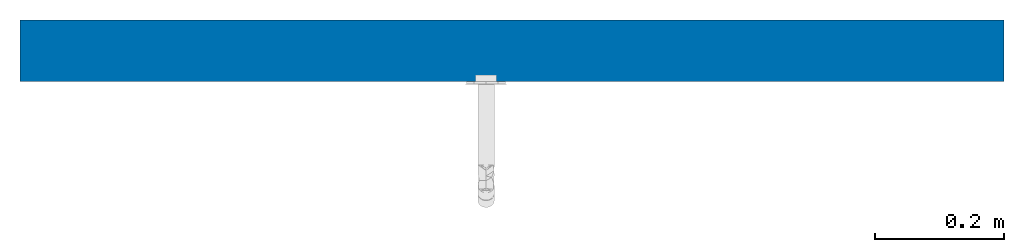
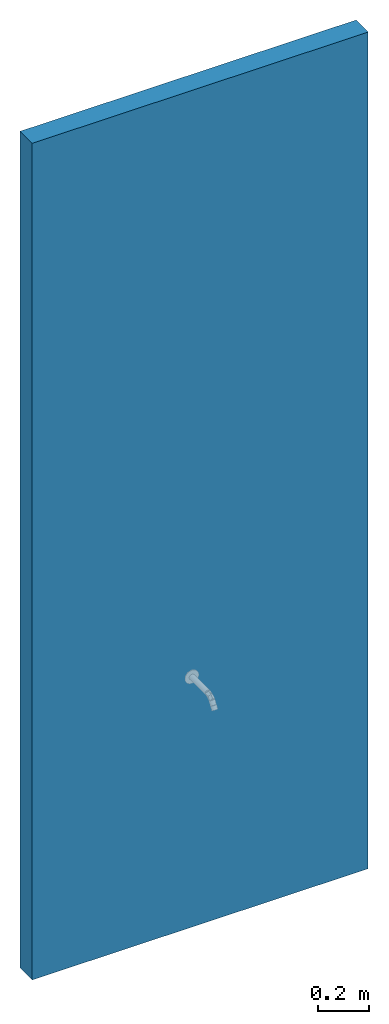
# One storey, incomplete: 1 wall.
"""IFC2X3 building model written with IfcOpenShell, lengths in millimetres."""

from ifc_helpers import new_model, entity, si_unit, converted_unit, derived_unit, direction, frame, frame_2d, origin, place, context, subcontext, project, spatial, rectangle, extrude, material, layer, layer_set, layer_usage, type_object, element, save


model = new_model("IFC2X3")

# Units and contexts
model_context = context("Model", 3, precision=0.01, world=origin(), true_north=direction((6.12303176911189e-17, 1.0)))
context_of_model = context(None, 3, precision=0.01, world=origin(), true_north=direction((6.12303176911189e-17, 1.0)))
body_context = subcontext(model_context, "Body", "Model", "MODEL_VIEW")
ifc_project = project(units=[si_unit("LENGTHUNIT", "METRE", prefix="MILLI"), si_unit("AREAUNIT", "SQUARE_METRE"), si_unit("VOLUMEUNIT", "CUBIC_METRE"), converted_unit("PLANEANGLEUNIT", "DEGREE", entity("IfcRatioMeasure", 0.0174532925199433), si_unit("PLANEANGLEUNIT", "RADIAN"), dimensions=[0, 0, 0, 0, 0, 0, 0]), si_unit("MASSUNIT", "GRAM", prefix="KILO"), si_unit("TIMEUNIT", "SECOND"), si_unit("FREQUENCYUNIT", "HERTZ"), si_unit("THERMODYNAMICTEMPERATUREUNIT", "DEGREE_CELSIUS"), derived_unit("THERMALTRANSMITTANCEUNIT", [(si_unit("MASSUNIT", "GRAM", prefix="KILO"), 1), (si_unit("THERMODYNAMICTEMPERATUREUNIT", "KELVIN"), -1), (si_unit("TIMEUNIT", "SECOND"), -3)]), derived_unit("VOLUMETRICFLOWRATEUNIT", [(si_unit("LENGTHUNIT", "METRE"), 3), (si_unit("TIMEUNIT", "SECOND"), -1)]), si_unit("ELECTRICCURRENTUNIT", "AMPERE"), si_unit("ELECTRICVOLTAGEUNIT", "VOLT"), si_unit("POWERUNIT", "WATT"), si_unit("FORCEUNIT", "NEWTON", prefix="KILO"), si_unit("ILLUMINANCEUNIT", "LUX"), si_unit("LUMINOUSFLUXUNIT", "LUMEN"), si_unit("LUMINOUSINTENSITYUNIT", "CANDELA"), si_unit("PRESSUREUNIT", "PASCAL")], contexts=[model_context, context_of_model])

# Site, building, storey
site_placement = place(None, origin())
site = spatial("IfcSite", under=ifc_project, at=site_placement, Name="Default", CompositionType="ELEMENT")
building_placement = place(site_placement, origin())
building = spatial("IfcBuilding", under=site, at=building_placement, CompositionType="ELEMENT")
storey_placement = place(building_placement, origin())
storey = spatial("IfcBuildingStorey", under=building, at=storey_placement, Name="Level 0", CompositionType="ELEMENT", Elevation=0.0)

# Wall
ifc_material_1 = material(Name="Plaster")
ifc_layer_1 = layer(ifc_material_1, 12.5)
ifc_material_2 = material(Name="Metal Stud Layer")
ifc_layer_2 = layer(ifc_material_2, 70.0)
ifc_layer_3 = layer(ifc_material_1, 12.5)
ifc_layer_set = layer_set([ifc_layer_1, ifc_layer_2, ifc_layer_3], Name="Basic Wall:Wall-Partn_12P-70MStd-12P")
ifc_layer_usage = layer_usage(ifc_layer_set, "AXIS2", "NEGATIVE", 47.5)
wall_type = type_object("IfcWallType", Name="Basic Wall:Wall-Partn_12P-70MStd-12P", PredefinedType="STANDARD", material=ifc_layer_set)
wall_placement = place(storey_placement, frame((3880.94298835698, 5790.27886266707, 0.0)))
element("IfcWallStandardCase", 1, at=wall_placement, inside=storey, type_object=wall_type, material=ifc_layer_usage, Name="Basic Wall:Wall-Partn_12P-70MStd-12P", ObjectType="Basic Wall:Wall-Partn_12P-70MStd-12P", context=body_context, shape_type="SweptSolid", body=[
    extrude(rectangle(XDim=1520.0, YDim=95.0000000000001, at=frame_2d((760.0, -3.5527136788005e-14), x_axis=(-1.0, 0.0))), origin(), (0.0, 0.0, 1.0), 4000.0),
])

save(model, "model.ifc")
